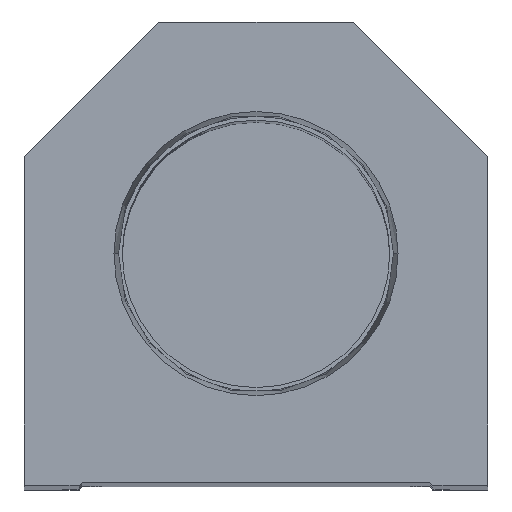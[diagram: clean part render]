
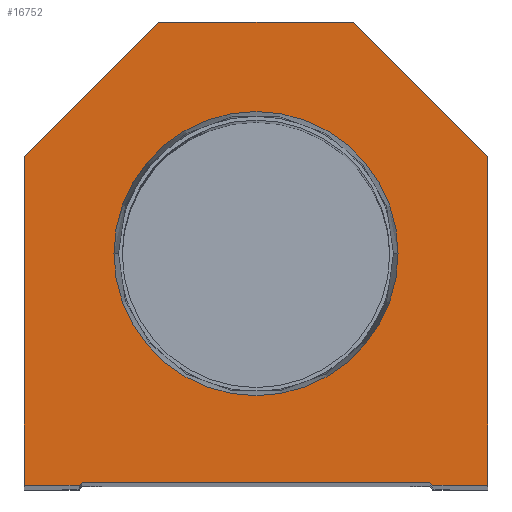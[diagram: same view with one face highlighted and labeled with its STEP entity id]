
A CAD part, top view. The second image highlights one B-rep face of the part: STEP entity #16752.
In plain terms, the highlighted planar face has unit normal (0, 0, 1).
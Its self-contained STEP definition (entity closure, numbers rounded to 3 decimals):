
#515 = CARTESIAN_POINT ( 'NONE',  ( 38.1, 54.1, 0. ) ) ;
#1024 = LINE ( 'NONE', #11123, #13693 ) ;
#1050 = DIRECTION ( 'NONE',  ( 1., 0., 0. ) ) ;
#1318 = DIRECTION ( 'NONE',  ( 1., 0., 0. ) ) ;
#1513 = CARTESIAN_POINT ( 'NONE',  ( 38.1, 0., 0. ) ) ;
#1642 = CARTESIAN_POINT ( 'NONE',  ( 16., 76.2, 0. ) ) ;
#1661 = CARTESIAN_POINT ( 'NONE',  ( -38.1, 54.1, 0. ) ) ;
#2065 = EDGE_LOOP ( 'NONE', ( #9403, #12833, #9803, #6241, #2982, #2319, #20627, #17906, #10625, #16191 ) ) ;
#2130 = DIRECTION ( 'NONE',  ( 0.707, -0.707, 0. ) ) ;
#2311 = EDGE_CURVE ( 'NONE', #19997, #3655, #3940, .T. ) ;
#2319 = ORIENTED_EDGE ( 'NONE', *, *, #18257, .T. ) ;
#2323 = VERTEX_POINT ( 'NONE', #18934 ) ;
#2357 = LINE ( 'NONE', #7369, #4244 ) ;
#2369 = DIRECTION ( 'NONE',  ( 0.707, 0.707, 0. ) ) ;
#2690 = EDGE_CURVE ( 'NONE', #14477, #2323, #14785, .T. ) ;
#2743 = CARTESIAN_POINT ( 'NONE',  ( 23.374, 38.1, 0. ) ) ;
#2836 = VECTOR ( 'NONE', #1050, 1000. ) ;
#2982 = ORIENTED_EDGE ( 'NONE', *, *, #4572, .T. ) ;
#3333 = VERTEX_POINT ( 'NONE', #16961 ) ;
#3563 = DIRECTION ( 'NONE',  ( 1., 0., 0. ) ) ;
#3655 = VERTEX_POINT ( 'NONE', #10710 ) ;
#3720 = DIRECTION ( 'NONE',  ( -0.707, 0.707, 0. ) ) ;
#3918 = VECTOR ( 'NONE', #3720, 1000. ) ;
#3940 = LINE ( 'NONE', #515, #3918 ) ;
#3972 = EDGE_LOOP ( 'NONE', ( #21231, #17706 ) ) ;
#4244 = VECTOR ( 'NONE', #2130, 1000. ) ;
#4514 = VECTOR ( 'NONE', #11955, 1000. ) ;
#4572 = EDGE_CURVE ( 'NONE', #19717, #6525, #16170, .T. ) ;
#4772 = EDGE_CURVE ( 'NONE', #3333, #19717, #2357, .T. ) ;
#5149 = DIRECTION ( 'NONE',  ( 1., 0., 0. ) ) ;
#5266 = FACE_BOUND ( 'NONE', #3972, .T. ) ;
#5371 = FACE_OUTER_BOUND ( 'NONE', #2065, .T. ) ;
#5589 = EDGE_CURVE ( 'NONE', #15488, #3333, #14666, .T. ) ;
#5644 = DIRECTION ( 'NONE',  ( 1., 0., 0. ) ) ;
#5649 = LINE ( 'NONE', #17473, #19201 ) ;
#6055 = AXIS2_PLACEMENT_3D ( 'NONE', #11021, #17693, #5644 ) ;
#6241 = ORIENTED_EDGE ( 'NONE', *, *, #4772, .T. ) ;
#6405 = CARTESIAN_POINT ( 'NONE',  ( 38.1, 0., 0. ) ) ;
#6525 = VERTEX_POINT ( 'NONE', #1513 ) ;
#6585 = VECTOR ( 'NONE', #15005, 1000. ) ;
#6886 = EDGE_CURVE ( 'NONE', #18697, #8852, #18061, .T. ) ;
#7261 = CARTESIAN_POINT ( 'NONE',  ( 38.1, 54.1, 0. ) ) ;
#7369 = CARTESIAN_POINT ( 'NONE',  ( 14.55, 14.55, 0. ) ) ;
#7560 = VERTEX_POINT ( 'NONE', #1661 ) ;
#7621 = CARTESIAN_POINT ( 'NONE',  ( 28.6, 0., 0. ) ) ;
#7924 = DIRECTION ( 'NONE',  ( -0.707, -0.707, 0. ) ) ;
#8395 = DIRECTION ( 'NONE',  ( 1., 0., 0. ) ) ;
#8668 = EDGE_CURVE ( 'NONE', #3655, #13783, #16867, .T. ) ;
#8779 = DIRECTION ( 'NONE',  ( 0., 0., 1. ) ) ;
#8852 = VERTEX_POINT ( 'NONE', #18704 ) ;
#9323 = EDGE_CURVE ( 'NONE', #8852, #15488, #5649, .T. ) ;
#9403 = ORIENTED_EDGE ( 'NONE', *, *, #6886, .T. ) ;
#9803 = ORIENTED_EDGE ( 'NONE', *, *, #5589, .T. ) ;
#10053 = CARTESIAN_POINT ( 'NONE',  ( -28.6, 0.5, 0. ) ) ;
#10056 = VECTOR ( 'NONE', #16263, 1000. ) ;
#10320 = CARTESIAN_POINT ( 'NONE',  ( 0., 0., 0. ) ) ;
#10625 = ORIENTED_EDGE ( 'NONE', *, *, #12301, .T. ) ;
#10710 = CARTESIAN_POINT ( 'NONE',  ( 16., 76.2, 0. ) ) ;
#11021 = CARTESIAN_POINT ( 'NONE',  ( 0., 38.1, 0. ) ) ;
#11093 = CARTESIAN_POINT ( 'NONE',  ( 0., 38.1, 0. ) ) ;
#11123 = CARTESIAN_POINT ( 'NONE',  ( -38.1, 54.1, 0. ) ) ;
#11925 = CARTESIAN_POINT ( 'NONE',  ( 29.1, 0., 0. ) ) ;
#11955 = DIRECTION ( 'NONE',  ( 0., -1., 0. ) ) ;
#11961 = PLANE ( 'NONE',  #21557 ) ;
#11990 = VECTOR ( 'NONE', #8395, 1000. ) ;
#12301 = EDGE_CURVE ( 'NONE', #13783, #7560, #1024, .T. ) ;
#12833 = ORIENTED_EDGE ( 'NONE', *, *, #9323, .T. ) ;
#13475 = EDGE_CURVE ( 'NONE', #2323, #14477, #21245, .T. ) ;
#13657 = CARTESIAN_POINT ( 'NONE',  ( -28.6, 0., 0. ) ) ;
#13693 = VECTOR ( 'NONE', #7924, 1000. ) ;
#13783 = VERTEX_POINT ( 'NONE', #20669 ) ;
#14477 = VERTEX_POINT ( 'NONE', #2743 ) ;
#14666 = LINE ( 'NONE', #10053, #11990 ) ;
#14785 = CIRCLE ( 'NONE', #6055, 23.374 ) ;
#15005 = DIRECTION ( 'NONE',  ( -1., 0., 0. ) ) ;
#15488 = VERTEX_POINT ( 'NONE', #18255 ) ;
#15559 = LINE ( 'NONE', #20553, #4514 ) ;
#16170 = LINE ( 'NONE', #7621, #2836 ) ;
#16191 = ORIENTED_EDGE ( 'NONE', *, *, #20192, .T. ) ;
#16263 = DIRECTION ( 'NONE',  ( 0., 1., 0. ) ) ;
#16752 = ADVANCED_FACE ( 'NONE', ( #5266, #5371 ), #11961, .T. ) ;
#16867 = LINE ( 'NONE', #1642, #6585 ) ;
#16961 = CARTESIAN_POINT ( 'NONE',  ( 28.6, 0.5, 0. ) ) ;
#17473 = CARTESIAN_POINT ( 'NONE',  ( -14.55, 14.55, 0. ) ) ;
#17693 = DIRECTION ( 'NONE',  ( 0., 0., 1. ) ) ;
#17706 = ORIENTED_EDGE ( 'NONE', *, *, #13475, .F. ) ;
#17906 = ORIENTED_EDGE ( 'NONE', *, *, #8668, .T. ) ;
#18017 = LINE ( 'NONE', #6405, #10056 ) ;
#18061 = LINE ( 'NONE', #13657, #19362 ) ;
#18255 = CARTESIAN_POINT ( 'NONE',  ( -28.6, 0.5, 0. ) ) ;
#18257 = EDGE_CURVE ( 'NONE', #6525, #19997, #18017, .T. ) ;
#18697 = VERTEX_POINT ( 'NONE', #19924 ) ;
#18704 = CARTESIAN_POINT ( 'NONE',  ( -29.1, 0., 0. ) ) ;
#18934 = CARTESIAN_POINT ( 'NONE',  ( -23.374, 38.1, 0. ) ) ;
#19201 = VECTOR ( 'NONE', #2369, 1000. ) ;
#19362 = VECTOR ( 'NONE', #3563, 1000. ) ;
#19485 = AXIS2_PLACEMENT_3D ( 'NONE', #11093, #19600, #1318 ) ;
#19600 = DIRECTION ( 'NONE',  ( 0., 0., 1. ) ) ;
#19717 = VERTEX_POINT ( 'NONE', #11925 ) ;
#19924 = CARTESIAN_POINT ( 'NONE',  ( -38.1, 0., 0. ) ) ;
#19997 = VERTEX_POINT ( 'NONE', #7261 ) ;
#20192 = EDGE_CURVE ( 'NONE', #7560, #18697, #15559, .T. ) ;
#20553 = CARTESIAN_POINT ( 'NONE',  ( -38.1, 0., 0. ) ) ;
#20627 = ORIENTED_EDGE ( 'NONE', *, *, #2311, .T. ) ;
#20669 = CARTESIAN_POINT ( 'NONE',  ( -16., 76.2, 0. ) ) ;
#21231 = ORIENTED_EDGE ( 'NONE', *, *, #2690, .F. ) ;
#21245 = CIRCLE ( 'NONE', #19485, 23.374 ) ;
#21557 = AXIS2_PLACEMENT_3D ( 'NONE', #10320, #8779, #5149 ) ;
